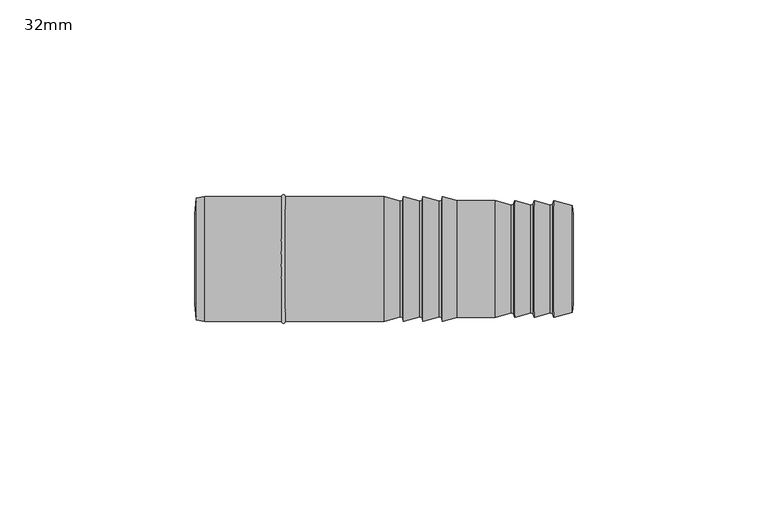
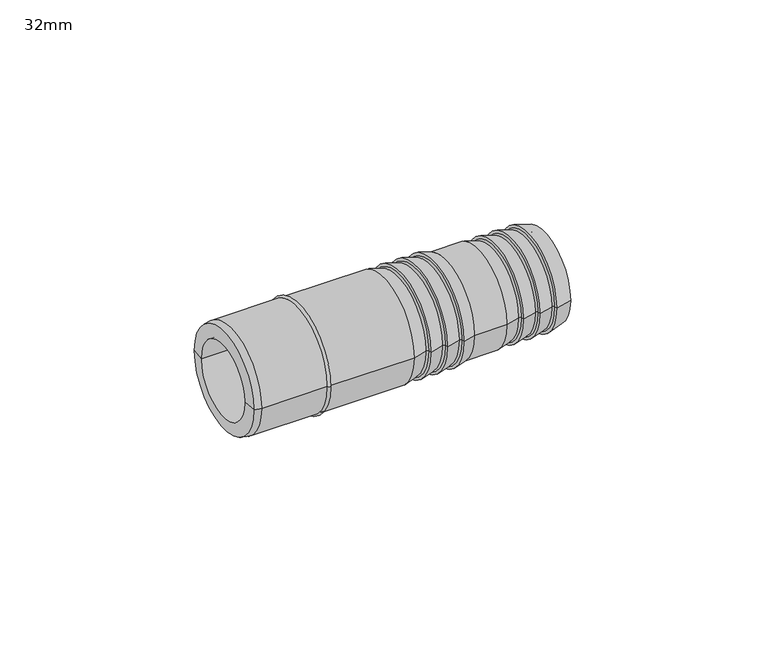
"""IFC4 building model written with IfcOpenShell, lengths in millimetres: pipe fitting geometry, Durapipe_PipeAccessories_PVC_HoseAdaptor : 32mm."""

from ifc_helpers import new_model, si_unit, point, frame, origin, place, context, project, spatial, polyline, circle_curve, ellipse_curve, trimmed, source, transform, mapped, element, save
from ifc_brep_helpers import cylinder_surface, revolved_surface, advanced_brep


def pipe_fitting_32mm_ba99279e(model_context):
    return source(origin(), model_context, "Body", "AdvancedBrep", [
        advanced_brep(
        [(48.3288625, -13.7061102, 0.0), (48.3288625, 13.7061102, 0.0), (48.5, 11.5, 0.0), (48.5, -11.5, 0.0), (43.5, -15.0, 0.0), (43.5, 15.0, 0.0), (43.294473, -14.2329629, 0.0), (43.294473, 14.2329629, 0.0), (42.6821006, -13.8794095, 0.0), (42.6821006, 13.8794095, 0.0), (38.5, -15.0, 0.0), (38.5, 15.0, 0.0), (38.294473, -14.2329629, 0.0), (38.294473, 14.2329629, 0.0), (37.6821006, -13.8794095, 0.0), (37.6821006, 13.8794095, 0.0), (33.5, -15.0, 0.0), (33.5, 15.0, 0.0), (33.294473, -14.2329629, 0.0), (33.294473, 14.2329629, 0.0), (32.6821006, -13.8794095, 0.0), (32.6821006, 13.8794095, 0.0), (28.5, -15.0, 0.0), (28.5, 15.0, 0.0), (18.7320508, -15.0, 0.0), (18.7320508, 15.0, 0.0), (15.0, -16.0, 0.0), (15.0, 16.0, 0.0), (14.794473, -15.2329629, 0.0), (14.794473, 15.2329629, 0.0), (14.1821006, -14.8794095, 0.0), (14.1821006, 14.8794095, 0.0), (10.0, -16.0, 0.0), (10.0, 16.0, 0.0), (9.794473, -15.2329629, 0.0), (9.794473, 15.2329629, 0.0), (9.1821006, -14.8794095, 0.0), (9.1821006, 14.8794095, 0.0), (5.0, -16.0, 0.0), (5.0, 16.0, 0.0), (4.794473, -15.2329629, 0.0), (4.794473, 15.2329629, 0.0), (4.1821006, -14.8794095, 0.0), (4.1821006, 14.8794095, 0.0), (0.0, -16.0, 0.0), (0.0, 16.0, 0.0), (-25.3, -16.0, 0.0), (-25.3, 16.0, 0.0), (-26.3, -16.0, 0.0), (-26.3, 16.0, 0.0), (-46.0, -16.0, 0.0), (-46.0, 16.0, 0.0), (-48.1393032, -15.6227831, 0.0), (-48.1393032, 15.6227831, 0.0), (-48.5, -11.5, 0.0), (-48.5, 11.5, 0.0)],
        [
            (0, 1, circle_curve(frame((48.3288625, 0.0, 0.0), z_axis=(1.0, 0.0, 0.0), x_axis=(0.0, 1.0, 0.0)), 13.7061102)),
            (1, 2),
            (2, 3, circle_curve(frame((48.5, 0.0, 0.0), z_axis=(-1.0, 0.0, 0.0), x_axis=(0.0, 1.0, 0.0)), 11.5)),
            (3, 0),
            (1, 0, circle_curve(frame((48.3288625, 0.0, 0.0), z_axis=(1.0, 0.0, 0.0), x_axis=(0.0, 1.0, 0.0)), 13.7061102)),
            (3, 2, circle_curve(frame((48.5, 0.0, 0.0), z_axis=(-1.0, 0.0, 0.0), x_axis=(0.0, 1.0, 0.0)), 11.5)),
            (4, 5, circle_curve(frame((43.5, 0.0, 0.0), z_axis=(1.0, 0.0, 0.0), x_axis=(0.0, 1.0, 0.0)), 15.0)),
            (5, 1),
            (0, 4),
            (5, 4, circle_curve(frame((43.5, 0.0, 0.0), z_axis=(1.0, 0.0, 0.0), x_axis=(0.0, 1.0, 0.0)), 15.0)),
            (6, 7, circle_curve(frame((43.294473, 0.0, 0.0), z_axis=(1.0, 0.0, 0.0), x_axis=(0.0, 1.0, 0.0)), 14.2329629)),
            (7, 5),
            (4, 6),
            (7, 6, circle_curve(frame((43.294473, 0.0, 0.0), z_axis=(1.0, 0.0, 0.0), x_axis=(0.0, 1.0, 0.0)), 14.2329629)),
            (8, 9, circle_curve(frame((42.6821006, 0.0, 0.0), z_axis=(1.0, 0.0, 0.0), x_axis=(0.0, 1.0, 0.0)), 13.8794095)),
            (9, 7, circle_curve(frame((42.8115101, 14.3623724, 0.0), z_axis=(0.0, 0.0, 1.0), x_axis=(-1.0, 0.0, 0.0)), 0.5)),
            (6, 8, circle_curve(frame((42.8115101, -14.3623724, 0.0), z_axis=(0.0, 0.0, 1.0), x_axis=(-1.0, 0.0, 0.0)), 0.5)),
            (9, 8, circle_curve(frame((42.6821006, 0.0, 0.0), z_axis=(1.0, 0.0, 0.0), x_axis=(0.0, 1.0, 0.0)), 13.8794095)),
            (10, 11, circle_curve(frame((38.5, 0.0, 0.0), z_axis=(1.0, 0.0, 0.0), x_axis=(0.0, 1.0, 0.0)), 15.0)),
            (11, 9),
            (8, 10),
            (11, 10, circle_curve(frame((38.5, 0.0, 0.0), z_axis=(1.0, 0.0, 0.0), x_axis=(0.0, 1.0, 0.0)), 15.0)),
            (12, 13, circle_curve(frame((38.294473, 0.0, 0.0), z_axis=(1.0, 0.0, 0.0), x_axis=(0.0, 1.0, 0.0)), 14.2329629)),
            (13, 11),
            (10, 12),
            (13, 12, circle_curve(frame((38.294473, 0.0, 0.0), z_axis=(1.0, 0.0, 0.0), x_axis=(0.0, 1.0, 0.0)), 14.2329629)),
            (14, 15, circle_curve(frame((37.6821006, 0.0, 0.0), z_axis=(1.0, 0.0, 0.0), x_axis=(0.0, 1.0, 0.0)), 13.8794095)),
            (15, 13, circle_curve(frame((37.8115101, 14.3623724, 0.0), z_axis=(0.0, 0.0, 1.0), x_axis=(-1.0, 0.0, 0.0)), 0.5)),
            (12, 14, circle_curve(frame((37.8115101, -14.3623724, 0.0), z_axis=(0.0, 0.0, 1.0), x_axis=(-1.0, 0.0, 0.0)), 0.5)),
            (15, 14, circle_curve(frame((37.6821006, 0.0, 0.0), z_axis=(1.0, 0.0, 0.0), x_axis=(0.0, 1.0, 0.0)), 13.8794095)),
            (16, 17, circle_curve(frame((33.5, 0.0, 0.0), z_axis=(1.0, 0.0, 0.0), x_axis=(0.0, 1.0, 0.0)), 15.0)),
            (17, 15),
            (14, 16),
            (17, 16, circle_curve(frame((33.5, 0.0, 0.0), z_axis=(1.0, 0.0, 0.0), x_axis=(0.0, 1.0, 0.0)), 15.0)),
            (18, 19, circle_curve(frame((33.294473, 0.0, 0.0), z_axis=(1.0, 0.0, 0.0), x_axis=(0.0, 1.0, 0.0)), 14.2329629)),
            (19, 17),
            (16, 18),
            (19, 18, circle_curve(frame((33.294473, 0.0, 0.0), z_axis=(1.0, 0.0, 0.0), x_axis=(0.0, 1.0, 0.0)), 14.2329629)),
            (20, 21, circle_curve(frame((32.6821006, 0.0, 0.0), z_axis=(1.0, 0.0, 0.0), x_axis=(0.0, 1.0, 0.0)), 13.8794095)),
            (21, 19, circle_curve(frame((32.8115101, 14.3623724, 0.0), z_axis=(0.0, 0.0, 1.0), x_axis=(-1.0, 0.0, 0.0)), 0.5)),
            (18, 20, circle_curve(frame((32.8115101, -14.3623724, 0.0), z_axis=(0.0, 0.0, 1.0), x_axis=(-1.0, 0.0, 0.0)), 0.5)),
            (21, 20, circle_curve(frame((32.6821006, 0.0, 0.0), z_axis=(1.0, 0.0, 0.0), x_axis=(0.0, 1.0, 0.0)), 13.8794095)),
            (22, 23, circle_curve(frame((28.5, 0.0, 0.0), z_axis=(1.0, 0.0, 0.0), x_axis=(0.0, 1.0, 0.0)), 15.0)),
            (23, 21),
            (20, 22),
            (23, 22, circle_curve(frame((28.5, 0.0, 0.0), z_axis=(1.0, 0.0, 0.0), x_axis=(0.0, 1.0, 0.0)), 15.0)),
            (24, 25, circle_curve(frame((18.7320508, 0.0, 0.0), z_axis=(1.0, 0.0, 0.0), x_axis=(0.0, 1.0, 0.0)), 15.0)),
            (25, 23),
            (22, 24),
            (25, 24, circle_curve(frame((18.7320508, 0.0, 0.0), z_axis=(1.0, 0.0, 0.0), x_axis=(0.0, 1.0, 0.0)), 15.0)),
            (26, 27, circle_curve(frame((15.0, 0.0, 0.0), z_axis=(1.0, 0.0, 0.0), x_axis=(0.0, 1.0, 0.0)), 16.0)),
            (27, 25),
            (24, 26),
            (27, 26, circle_curve(frame((15.0, 0.0, 0.0), z_axis=(1.0, 0.0, 0.0), x_axis=(0.0, 1.0, 0.0)), 16.0)),
            (28, 29, circle_curve(frame((14.794473, 0.0, 0.0), z_axis=(1.0, 0.0, 0.0), x_axis=(0.0, 1.0, 0.0)), 15.2329629)),
            (29, 27),
            (26, 28),
            (29, 28, circle_curve(frame((14.794473, 0.0, 0.0), z_axis=(1.0, 0.0, 0.0), x_axis=(0.0, 1.0, 0.0)), 15.2329629)),
            (30, 31, circle_curve(frame((14.1821006, 0.0, 0.0), z_axis=(1.0, 0.0, 0.0), x_axis=(0.0, 1.0, 0.0)), 14.8794095)),
            (31, 29, circle_curve(frame((14.3115101, 15.3623724, 0.0), z_axis=(0.0, 0.0, 1.0), x_axis=(-1.0, 0.0, 0.0)), 0.5)),
            (28, 30, circle_curve(frame((14.3115101, -15.3623724, 0.0), z_axis=(0.0, 0.0, 1.0), x_axis=(-1.0, 0.0, 0.0)), 0.5)),
            (31, 30, circle_curve(frame((14.1821006, 0.0, 0.0), z_axis=(1.0, 0.0, 0.0), x_axis=(0.0, 1.0, 0.0)), 14.8794095)),
            (32, 33, circle_curve(frame((10.0, 0.0, 0.0), z_axis=(1.0, 0.0, 0.0), x_axis=(0.0, 1.0, 0.0)), 16.0)),
            (33, 31),
            (30, 32),
            (33, 32, circle_curve(frame((10.0, 0.0, 0.0), z_axis=(1.0, 0.0, 0.0), x_axis=(0.0, 1.0, 0.0)), 16.0)),
            (34, 35, circle_curve(frame((9.794473, 0.0, 0.0), z_axis=(1.0, 0.0, 0.0), x_axis=(0.0, 1.0, 0.0)), 15.2329629)),
            (35, 33),
            (32, 34),
            (35, 34, circle_curve(frame((9.794473, 0.0, 0.0), z_axis=(1.0, 0.0, 0.0), x_axis=(0.0, 1.0, 0.0)), 15.2329629)),
            (36, 37, circle_curve(frame((9.1821006, 0.0, 0.0), z_axis=(1.0, 0.0, 0.0), x_axis=(0.0, 1.0, 0.0)), 14.8794095)),
            (37, 35, circle_curve(frame((9.3115101, 15.3623724, 0.0), z_axis=(0.0, 0.0, 1.0), x_axis=(-1.0, 0.0, 0.0)), 0.5)),
            (34, 36, circle_curve(frame((9.3115101, -15.3623724, 0.0), z_axis=(0.0, 0.0, 1.0), x_axis=(-1.0, 0.0, 0.0)), 0.5)),
            (37, 36, circle_curve(frame((9.1821006, 0.0, 0.0), z_axis=(1.0, 0.0, 0.0), x_axis=(0.0, 1.0, 0.0)), 14.8794095)),
            (38, 39, circle_curve(frame((5.0, 0.0, 0.0), z_axis=(1.0, 0.0, 0.0), x_axis=(0.0, 1.0, 0.0)), 16.0)),
            (39, 37),
            (36, 38),
            (39, 38, circle_curve(frame((5.0, 0.0, 0.0), z_axis=(1.0, 0.0, 0.0), x_axis=(0.0, 1.0, 0.0)), 16.0)),
            (40, 41, circle_curve(frame((4.794473, 0.0, 0.0), z_axis=(1.0, 0.0, 0.0), x_axis=(0.0, 1.0, 0.0)), 15.2329629)),
            (41, 39),
            (38, 40),
            (41, 40, circle_curve(frame((4.794473, 0.0, 0.0), z_axis=(1.0, 0.0, 0.0), x_axis=(0.0, 1.0, 0.0)), 15.2329629)),
            (42, 43, circle_curve(frame((4.1821006, 0.0, 0.0), z_axis=(1.0, 0.0, 0.0), x_axis=(0.0, 1.0, 0.0)), 14.8794095)),
            (43, 41, circle_curve(frame((4.3115101, 15.3623724, 0.0), z_axis=(0.0, 0.0, 1.0), x_axis=(-1.0, 0.0, 0.0)), 0.5)),
            (40, 42, circle_curve(frame((4.3115101, -15.3623724, 0.0), z_axis=(0.0, 0.0, 1.0), x_axis=(-1.0, 0.0, 0.0)), 0.5)),
            (43, 42, circle_curve(frame((4.1821006, 0.0, 0.0), z_axis=(1.0, 0.0, 0.0), x_axis=(0.0, 1.0, 0.0)), 14.8794095)),
            (44, 45, circle_curve(frame((0.0, 0.0, 0.0), z_axis=(1.0, 0.0, 0.0), x_axis=(0.0, 1.0, 0.0)), 16.0)),
            (45, 43),
            (42, 44),
            (45, 44, circle_curve(frame((0.0, 0.0, 0.0), z_axis=(1.0, 0.0, 0.0), x_axis=(0.0, 1.0, 0.0)), 16.0)),
            (46, 47, circle_curve(frame((-25.3, 0.0, 0.0), z_axis=(1.0, 0.0, 0.0), x_axis=(0.0, 1.0, 0.0)), 16.0)),
            (47, 45),
            (44, 46),
            (47, 46, circle_curve(frame((-25.3, 0.0, 0.0), z_axis=(1.0, 0.0, 0.0), x_axis=(0.0, 1.0, 0.0)), 16.0)),
            (48, 49, circle_curve(frame((-26.3, 0.0, 0.0), z_axis=(1.0, 0.0, 0.0), x_axis=(0.0, 1.0, 0.0)), 16.0)),
            (49, 47, circle_curve(frame((-25.8, 16.0, 0.0), z_axis=(0.0, 0.0, -1.0), x_axis=(1.0, 0.0, 0.0)), 0.5)),
            (46, 48, circle_curve(frame((-25.8, -16.0, 0.0), z_axis=(0.0, 0.0, -1.0), x_axis=(1.0, 0.0, 0.0)), 0.5)),
            (49, 48, circle_curve(frame((-26.3, 0.0, 0.0), z_axis=(1.0, 0.0, 0.0), x_axis=(0.0, 1.0, 0.0)), 16.0)),
            (50, 51, circle_curve(frame((-46.0, 0.0, 0.0), z_axis=(1.0, 0.0, 0.0), x_axis=(0.0, 1.0, 0.0)), 16.0)),
            (51, 49),
            (48, 50),
            (51, 50, circle_curve(frame((-46.0, 0.0, 0.0), z_axis=(1.0, 0.0, 0.0), x_axis=(0.0, 1.0, 0.0)), 16.0)),
            (52, 53, circle_curve(frame((-48.1393032, 0.0, 0.0), z_axis=(1.0, 0.0, 0.0), x_axis=(0.0, 1.0, 0.0)), 15.6227831)),
            (53, 51),
            (50, 52),
            (53, 52, circle_curve(frame((-48.1393032, 0.0, 0.0), z_axis=(1.0, 0.0, 0.0), x_axis=(0.0, 1.0, 0.0)), 15.6227831)),
            (54, 55, circle_curve(frame((-48.5, 0.0, 0.0), z_axis=(1.0, 0.0, 0.0), x_axis=(0.0, 1.0, 0.0)), 11.5)),
            (55, 53),
            (52, 54),
            (55, 54, circle_curve(frame((-48.5, 0.0, 0.0), z_axis=(1.0, 0.0, 0.0), x_axis=(0.0, 1.0, 0.0)), 11.5)),
            (2, 55),
            (54, 3),
        ],
        [
            revolved_surface(polyline([(48.5, 11.5, 0.0), (48.3288625, 13.7061102, 0.0)]), (-46.0, 0.0, 0.0), (-1.0, 0.0, 0.0)),
            revolved_surface(polyline([(48.3288625, 13.7061102, 0.0), (43.5, 15.0, 0.0)]), (-46.0, 0.0, 0.0), (-1.0, 0.0, 0.0)),
            revolved_surface(polyline([(43.5, 15.0, 0.0), (43.294473, 14.2329629, 0.0)]), (-46.0, 0.0, 0.0), (-1.0, 0.0, 0.0)),
            revolved_surface(trimmed(ellipse_curve(frame((42.8115101, 14.3623724, 0.0), z_axis=(0.0, 0.0, -1.0), x_axis=(-1.0, 0.0, 0.0)), 0.5, 0.5), [point((43.294473, 14.2329629, 0.0))], [point((42.6821006, 13.8794095, 0.0))], True, "CARTESIAN"), (-46.0, 0.0, 0.0), (-1.0, 0.0, 0.0)),
            revolved_surface(polyline([(42.6821006, 13.8794095, 0.0), (38.5, 15.0, 0.0)]), (-46.0, 0.0, 0.0), (-1.0, 0.0, 0.0)),
            revolved_surface(polyline([(38.5, 15.0, 0.0), (38.294473, 14.2329629, 0.0)]), (-46.0, 0.0, 0.0), (-1.0, 0.0, 0.0)),
            revolved_surface(trimmed(ellipse_curve(frame((37.8115101, 14.3623724, 0.0), z_axis=(0.0, 0.0, -1.0), x_axis=(-1.0, 0.0, 0.0)), 0.5, 0.5), [point((38.294473, 14.2329629, 0.0))], [point((37.6821006, 13.8794095, 0.0))], True, "CARTESIAN"), (-46.0, 0.0, 0.0), (-1.0, 0.0, 0.0)),
            revolved_surface(polyline([(37.6821006, 13.8794095, 0.0), (33.5, 15.0, 0.0)]), (-46.0, 0.0, 0.0), (-1.0, 0.0, 0.0)),
            revolved_surface(polyline([(33.5, 15.0, 0.0), (33.294473, 14.2329629, 0.0)]), (-46.0, 0.0, 0.0), (-1.0, 0.0, 0.0)),
            revolved_surface(trimmed(ellipse_curve(frame((32.8115101, 14.3623724, 0.0), z_axis=(0.0, 0.0, -1.0), x_axis=(-1.0, 0.0, 0.0)), 0.5, 0.5), [point((33.294473, 14.2329629, 0.0))], [point((32.6821006, 13.8794095, 0.0))], True, "CARTESIAN"), (-46.0, 0.0, 0.0), (-1.0, 0.0, 0.0)),
            revolved_surface(polyline([(32.6821006, 13.8794095, 0.0), (28.5, 15.0, 0.0)]), (-46.0, 0.0, 0.0), (-1.0, 0.0, 0.0)),
            cylinder_surface(frame((-46.0, 0.0, 0.0), z_axis=(-1.0, 0.0, 0.0), x_axis=(0.0, 1.0, 0.0)), 15.0),
            revolved_surface(polyline([(18.7320508, 15.0, 0.0), (15.0, 16.0, 0.0)]), (-46.0, 0.0, 0.0), (-1.0, 0.0, 0.0)),
            revolved_surface(polyline([(15.0, 16.0, 0.0), (14.794473, 15.2329629, 0.0)]), (-46.0, 0.0, 0.0), (-1.0, 0.0, 0.0)),
            revolved_surface(trimmed(ellipse_curve(frame((14.3115101, 15.3623724, 0.0), z_axis=(0.0, 0.0, -1.0), x_axis=(-1.0, 0.0, 0.0)), 0.5, 0.5), [point((14.794473, 15.2329629, 0.0))], [point((14.1821006, 14.8794095, 0.0))], True, "CARTESIAN"), (-46.0, 0.0, 0.0), (-1.0, 0.0, 0.0)),
            revolved_surface(polyline([(14.1821006, 14.8794095, 0.0), (10.0, 16.0, 0.0)]), (-46.0, 0.0, 0.0), (-1.0, 0.0, 0.0)),
            revolved_surface(polyline([(10.0, 16.0, 0.0), (9.794473, 15.2329629, 0.0)]), (-46.0, 0.0, 0.0), (-1.0, 0.0, 0.0)),
            revolved_surface(trimmed(ellipse_curve(frame((9.3115101, 15.3623724, 0.0), z_axis=(0.0, 0.0, -1.0), x_axis=(-1.0, 0.0, 0.0)), 0.5, 0.5), [point((9.794473, 15.2329629, 0.0))], [point((9.1821006, 14.8794095, 0.0))], True, "CARTESIAN"), (-46.0, 0.0, 0.0), (-1.0, 0.0, 0.0)),
            revolved_surface(polyline([(9.1821006, 14.8794095, 0.0), (5.0, 16.0, 0.0)]), (-46.0, 0.0, 0.0), (-1.0, 0.0, 0.0)),
            revolved_surface(polyline([(5.0, 16.0, 0.0), (4.794473, 15.2329629, 0.0)]), (-46.0, 0.0, 0.0), (-1.0, 0.0, 0.0)),
            revolved_surface(trimmed(ellipse_curve(frame((4.3115101, 15.3623724, 0.0), z_axis=(0.0, 0.0, -1.0), x_axis=(-1.0, 0.0, 0.0)), 0.5, 0.5), [point((4.794473, 15.2329629, 0.0))], [point((4.1821006, 14.8794095, 0.0))], True, "CARTESIAN"), (-46.0, 0.0, 0.0), (-1.0, 0.0, 0.0)),
            revolved_surface(polyline([(4.1821006, 14.8794095, 0.0), (0.0, 16.0, 0.0)]), (-46.0, 0.0, 0.0), (-1.0, 0.0, 0.0)),
            cylinder_surface(frame((-46.0, 0.0, 0.0), z_axis=(-1.0, 0.0, 0.0), x_axis=(0.0, 1.0, 0.0)), 16.0),
            revolved_surface(trimmed(ellipse_curve(frame((-25.8, 16.0, 0.0), z_axis=(0.0, 0.0, 1.0), x_axis=(1.0, 0.0, 0.0)), 0.5, 0.5), [point((-25.3, 16.0, 0.0))], [point((-26.3, 16.0, 0.0))], True, "CARTESIAN"), (-46.0, 0.0, 0.0), (-1.0, 0.0, 0.0)),
            revolved_surface(polyline([(-46.0, 16.0, 0.0), (-48.1393032, 15.6227831, 0.0)]), (-46.0, 0.0, 0.0), (-1.0, 0.0, 0.0)),
            revolved_surface(polyline([(-48.1393032, 15.6227831, 0.0), (-48.5, 11.5, 0.0)]), (-46.0, 0.0, 0.0), (-1.0, 0.0, 0.0)),
            revolved_surface(polyline([(-48.5, 11.5, 0.0), (48.5, 11.5, 0.0)]), (-46.0, 0.0, 0.0), (-1.0, 0.0, 0.0)),
        ],
        [
            (0, [[1, 2, 3, 4]]),
            (0, [[5, -4, 6, -2]]),
            (1, [[7, 8, -1, 9]]),
            (1, [[10, -9, -5, -8]]),
            (2, [[11, 12, -7, 13]]),
            (2, [[14, -13, -10, -12]]),
            (3, [[15, 16, -11, 17]]),
            (3, [[18, -17, -14, -16]]),
            (4, [[19, 20, -15, 21]]),
            (4, [[22, -21, -18, -20]]),
            (5, [[23, 24, -19, 25]]),
            (5, [[26, -25, -22, -24]]),
            (6, [[27, 28, -23, 29]]),
            (6, [[30, -29, -26, -28]]),
            (7, [[31, 32, -27, 33]]),
            (7, [[34, -33, -30, -32]]),
            (8, [[35, 36, -31, 37]]),
            (8, [[38, -37, -34, -36]]),
            (9, [[39, 40, -35, 41]]),
            (9, [[42, -41, -38, -40]]),
            (10, [[43, 44, -39, 45]]),
            (10, [[46, -45, -42, -44]]),
            (11, [[47, 48, -43, 49]]),
            (11, [[50, -49, -46, -48]]),
            (12, [[51, 52, -47, 53]]),
            (12, [[54, -53, -50, -52]]),
            (13, [[55, 56, -51, 57]]),
            (13, [[58, -57, -54, -56]]),
            (14, [[59, 60, -55, 61]]),
            (14, [[62, -61, -58, -60]]),
            (15, [[63, 64, -59, 65]]),
            (15, [[66, -65, -62, -64]]),
            (16, [[67, 68, -63, 69]]),
            (16, [[70, -69, -66, -68]]),
            (17, [[71, 72, -67, 73]]),
            (17, [[74, -73, -70, -72]]),
            (18, [[75, 76, -71, 77]]),
            (18, [[78, -77, -74, -76]]),
            (19, [[79, 80, -75, 81]]),
            (19, [[82, -81, -78, -80]]),
            (20, [[83, 84, -79, 85]]),
            (20, [[86, -85, -82, -84]]),
            (21, [[87, 88, -83, 89]]),
            (21, [[90, -89, -86, -88]]),
            (22, [[91, 92, -87, 93]]),
            (22, [[94, -93, -90, -92]]),
            (23, [[95, 96, -91, 97]]),
            (23, [[98, -97, -94, -96]]),
            (22, [[99, 100, -95, 101]]),
            (22, [[102, -101, -98, -100]]),
            (24, [[103, 104, -99, 105]]),
            (24, [[106, -105, -102, -104]]),
            (25, [[107, 108, -103, 109]]),
            (25, [[110, -109, -106, -108]]),
            (26, [[-3, 111, -107, 112]]),
            (26, [[-6, -112, -110, -111]]),
        ],
    ),
    ])


if __name__ == "__main__":
    model = new_model("IFC4")
    model_context = context("Model", 3, world=origin())
    ifc_project = project(units=[si_unit("LENGTHUNIT", "METRE", prefix="MILLI")], contexts=[model_context])
    site = spatial("IfcSite", under=ifc_project)
    building = spatial("IfcBuilding", under=site)
    placement = place(None, origin())
    pipe_fitting_32mm_shape = pipe_fitting_32mm_ba99279e(model_context)
    element("IfcPipeFitting", 1, ObjectType="Durapipe_PipeAccessories_PVC_HoseAdaptor : 32mm", at=placement, inside=building, context=model_context, shape_type="MappedRepresentation", body=[
        mapped(pipe_fitting_32mm_shape, transform((0.0, 0.0, 0.0), x_axis=(1.0, 0.0, 0.0), y_axis=(0.0, 1.0, 0.0), z_axis=(0.0, 0.0, 1.0))),
    ])
    save(model, "model.ifc")
